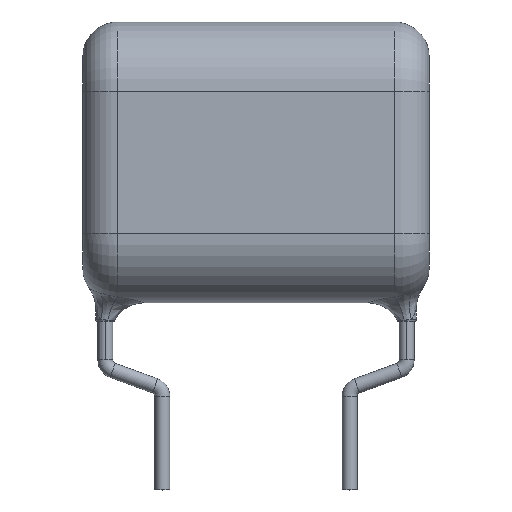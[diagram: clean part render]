
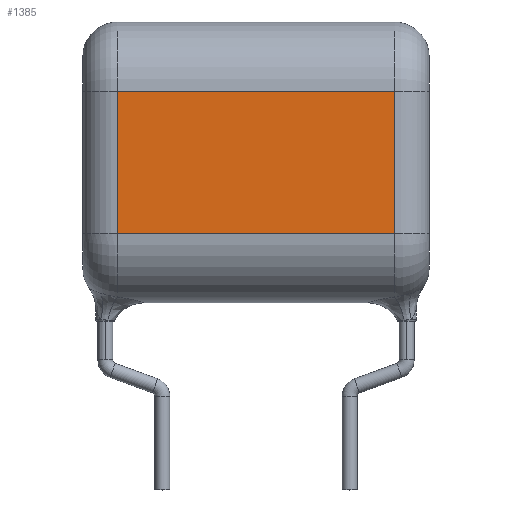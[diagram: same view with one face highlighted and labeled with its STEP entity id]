
A CAD part, top view. The second image highlights one B-rep face of the part: STEP entity #1385.
In plain terms, the highlighted planar face has unit normal (0, 0, 1).
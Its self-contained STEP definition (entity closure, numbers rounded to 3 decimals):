
#4 = VECTOR ( 'NONE', #912, 1000. ) ;
#235 = LINE ( 'NONE', #1588, #4 ) ;
#254 = VERTEX_POINT ( 'NONE', #928 ) ;
#279 = VECTOR ( 'NONE', #676, 1000. ) ;
#310 = DIRECTION ( 'NONE',  ( 1., 0., 0. ) ) ;
#394 = DIRECTION ( 'NONE',  ( 0., 0., 1. ) ) ;
#488 = CARTESIAN_POINT ( 'NONE',  ( 9.25, 8.7, 3.7 ) ) ;
#497 = LINE ( 'NONE', #488, #279 ) ;
#504 = CARTESIAN_POINT ( 'NONE',  ( -7.4, 16.3, 3.7 ) ) ;
#558 = LINE ( 'NONE', #894, #955 ) ;
#576 = VERTEX_POINT ( 'NONE', #504 ) ;
#587 = ORIENTED_EDGE ( 'NONE', *, *, #822, .F. ) ;
#603 = CARTESIAN_POINT ( 'NONE',  ( 7.4, 16.3, 3.7 ) ) ;
#665 = CARTESIAN_POINT ( 'NONE',  ( 0., 0., 3.7 ) ) ;
#672 = ORIENTED_EDGE ( 'NONE', *, *, #1665, .T. ) ;
#676 = DIRECTION ( 'NONE',  ( 1., 0., 0. ) ) ;
#752 = ORIENTED_EDGE ( 'NONE', *, *, #1530, .T. ) ;
#822 = EDGE_CURVE ( 'NONE', #1726, #576, #235, .T. ) ;
#894 = CARTESIAN_POINT ( 'NONE',  ( 0., 16.3, 3.7 ) ) ;
#912 = DIRECTION ( 'NONE',  ( 0., 1., 0. ) ) ;
#928 = CARTESIAN_POINT ( 'NONE',  ( 7.4, 8.7, 3.7 ) ) ;
#938 = CARTESIAN_POINT ( 'NONE',  ( -7.4, 8.7, 3.7 ) ) ;
#955 = VECTOR ( 'NONE', #1616, 1000. ) ;
#987 = EDGE_LOOP ( 'NONE', ( #672, #1786, #752, #587 ) ) ;
#1000 = AXIS2_PLACEMENT_3D ( 'NONE', #665, #394, #310 ) ;
#1171 = LINE ( 'NONE', #1349, #1757 ) ;
#1284 = VERTEX_POINT ( 'NONE', #603 ) ;
#1349 = CARTESIAN_POINT ( 'NONE',  ( 7.4, 16.3, 3.7 ) ) ;
#1385 = ADVANCED_FACE ( 'NONE', ( #1696 ), #1533, .T. ) ;
#1530 = EDGE_CURVE ( 'NONE', #1284, #576, #558, .T. ) ;
#1533 = PLANE ( 'NONE',  #1000 ) ;
#1588 = CARTESIAN_POINT ( 'NONE',  ( -7.4, 16.3, 3.7 ) ) ;
#1616 = DIRECTION ( 'NONE',  ( -1., 0., 0. ) ) ;
#1665 = EDGE_CURVE ( 'NONE', #1726, #254, #497, .T. ) ;
#1696 = FACE_OUTER_BOUND ( 'NONE', #987, .T. ) ;
#1726 = VERTEX_POINT ( 'NONE', #938 ) ;
#1736 = DIRECTION ( 'NONE',  ( 0., 1., 0. ) ) ;
#1757 = VECTOR ( 'NONE', #1736, 1000. ) ;
#1786 = ORIENTED_EDGE ( 'NONE', *, *, #1991, .T. ) ;
#1991 = EDGE_CURVE ( 'NONE', #254, #1284, #1171, .T. ) ;
